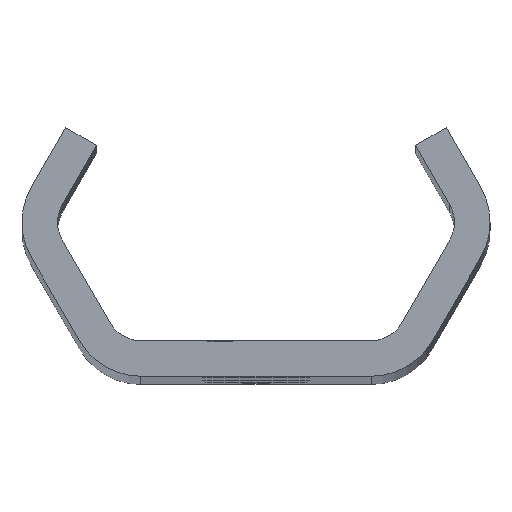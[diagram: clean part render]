
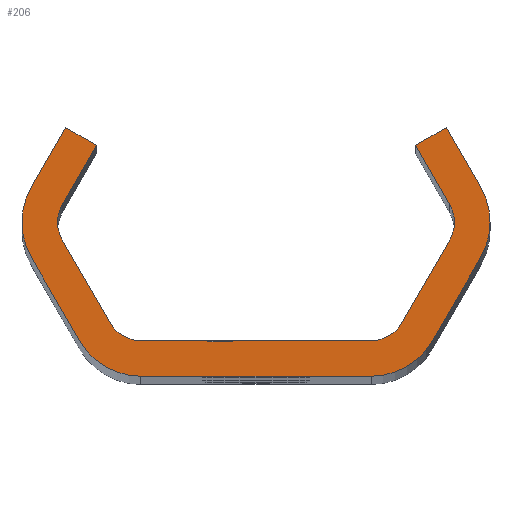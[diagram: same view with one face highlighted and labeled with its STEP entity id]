
A CAD part, top view. The second image highlights one B-rep face of the part: STEP entity #206.
In plain terms, the highlighted planar face has unit normal (0, 0, 1).
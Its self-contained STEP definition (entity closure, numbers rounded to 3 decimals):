
#206=ADVANCED_FACE('NONE',(#524),#525,.F.);
#524=FACE_OUTER_BOUND('',#1455,.T.);
#525=PLANE('',#1456);
#1455=EDGE_LOOP('',(#2989,#2990,#2991,#2992,#2993,#2994,#2995,#2996,#2997,#2998,#2999,#3000,#3001,#3002,#3003,#3004,#3005,#3006,#3007,#3008,#3009,#3010,#3011,#3012,#3013,#3014,#3015,#3016));
#1456=AXIS2_PLACEMENT_3D('',#3017,#3018,#3019);
#2989=ORIENTED_EDGE('',*,*,#4026,.F.);
#2990=ORIENTED_EDGE('',*,*,#4027,.T.);
#2991=ORIENTED_EDGE('',*,*,#3927,.T.);
#2992=ORIENTED_EDGE('',*,*,#4028,.T.);
#2993=ORIENTED_EDGE('',*,*,#3997,.T.);
#2994=ORIENTED_EDGE('',*,*,#4029,.T.);
#2995=ORIENTED_EDGE('',*,*,#3834,.T.);
#2996=ORIENTED_EDGE('',*,*,#4000,.T.);
#2997=ORIENTED_EDGE('',*,*,#4006,.T.);
#2998=ORIENTED_EDGE('',*,*,#4010,.T.);
#2999=ORIENTED_EDGE('',*,*,#4030,.T.);
#3000=ORIENTED_EDGE('',*,*,#3901,.T.);
#3001=ORIENTED_EDGE('',*,*,#4012,.T.);
#3002=ORIENTED_EDGE('',*,*,#4031,.T.);
#3003=ORIENTED_EDGE('',*,*,#4016,.T.);
#3004=ORIENTED_EDGE('',*,*,#4032,.T.);
#3005=ORIENTED_EDGE('',*,*,#3908,.T.);
#3006=ORIENTED_EDGE('',*,*,#4033,.T.);
#3007=ORIENTED_EDGE('',*,*,#3839,.T.);
#3008=ORIENTED_EDGE('',*,*,#3911,.T.);
#3009=ORIENTED_EDGE('',*,*,#3917,.T.);
#3010=ORIENTED_EDGE('',*,*,#3920,.T.);
#3011=ORIENTED_EDGE('',*,*,#3898,.T.);
#3012=ORIENTED_EDGE('',*,*,#4034,.T.);
#3013=ORIENTED_EDGE('',*,*,#3922,.T.);
#3014=ORIENTED_EDGE('',*,*,#4035,.T.);
#3015=ORIENTED_EDGE('',*,*,#3930,.T.);
#3016=ORIENTED_EDGE('',*,*,#4036,.T.);
#3017=CARTESIAN_POINT('',(0.0,0.0,400.0));
#3018=DIRECTION('',(0.0,0.0,-1.0));
#3019=DIRECTION('',(0.0,-1.0,0.0));
#3834=EDGE_CURVE('NONE',#4293,#4297,#4299,.T.);
#3839=EDGE_CURVE('NONE',#4302,#4306,#4308,.T.);
#3898=EDGE_CURVE('NONE',#4414,#4412,#4415,.T.);
#3901=EDGE_CURVE('NONE',#4418,#4419,#4420,.T.);
#3908=EDGE_CURVE('NONE',#4432,#4430,#4433,.T.);
#3911=EDGE_CURVE('NONE',#4306,#4436,#4437,.T.);
#3917=EDGE_CURVE('NONE',#4436,#4444,#4446,.T.);
#3920=EDGE_CURVE('NONE',#4444,#4414,#4449,.T.);
#3922=EDGE_CURVE('NONE',#4451,#4452,#4453,.T.);
#3927=EDGE_CURVE('NONE',#4460,#4461,#4462,.T.);
#3930=EDGE_CURVE('NONE',#4467,#4465,#4468,.T.);
#3997=EDGE_CURVE('NONE',#4592,#4590,#4593,.T.);
#4000=EDGE_CURVE('NONE',#4297,#4596,#4597,.T.);
#4006=EDGE_CURVE('NONE',#4596,#4604,#4606,.T.);
#4010=EDGE_CURVE('NONE',#4604,#4610,#4612,.T.);
#4012=EDGE_CURVE('NONE',#4419,#4614,#4615,.T.);
#4016=EDGE_CURVE('NONE',#4620,#4621,#4622,.T.);
#4026=EDGE_CURVE('NONE',#4634,#4635,#4636,.T.);
#4027=EDGE_CURVE('NONE',#4634,#4460,#4637,.T.);
#4028=EDGE_CURVE('NONE',#4461,#4592,#4638,.T.);
#4029=EDGE_CURVE('NONE',#4590,#4293,#4639,.T.);
#4030=EDGE_CURVE('NONE',#4610,#4418,#4640,.T.);
#4031=EDGE_CURVE('NONE',#4614,#4620,#4641,.T.);
#4032=EDGE_CURVE('NONE',#4621,#4432,#4642,.T.);
#4033=EDGE_CURVE('NONE',#4430,#4302,#4643,.T.);
#4034=EDGE_CURVE('NONE',#4412,#4451,#4644,.T.);
#4035=EDGE_CURVE('NONE',#4452,#4467,#4645,.T.);
#4036=EDGE_CURVE('NONE',#4465,#4635,#4646,.T.);
#4293=VERTEX_POINT('',#4976);
#4297=VERTEX_POINT('NONE',#4981);
#4299=CIRCLE('',#4984,3.0);
#4302=VERTEX_POINT('',#4987);
#4306=VERTEX_POINT('NONE',#4992);
#4308=CIRCLE('',#4995,6.0);
#4412=VERTEX_POINT('NONE',#5633);
#4414=VERTEX_POINT('NONE',#5636);
#4415=CIRCLE('',#5637,3.0);
#4418=VERTEX_POINT('NONE',#5641);
#4419=VERTEX_POINT('NONE',#5642);
#4420=CIRCLE('',#5643,6.0);
#4430=VERTEX_POINT('NONE',#5656);
#4432=VERTEX_POINT('NONE',#5659);
#4433=LINE('',#5660,#5661);
#4436=VERTEX_POINT('NONE',#5665);
#4437=LINE('',#5666,#5667);
#4444=VERTEX_POINT('NONE',#5677);
#4446=LINE('',#5680,#5681);
#4449=LINE('',#5685,#5686);
#4451=VERTEX_POINT('NONE',#5688);
#4452=VERTEX_POINT('NONE',#5689);
#4453=LINE('',#5690,#5691);
#4460=VERTEX_POINT('NONE',#5701);
#4461=VERTEX_POINT('NONE',#5702);
#4462=LINE('',#5703,#5704);
#4465=VERTEX_POINT('NONE',#5708);
#4467=VERTEX_POINT('NONE',#5711);
#4468=LINE('',#5712,#5713);
#4590=VERTEX_POINT('NONE',#6187);
#4592=VERTEX_POINT('NONE',#6190);
#4593=LINE('',#6191,#6192);
#4596=VERTEX_POINT('NONE',#6196);
#4597=LINE('',#6197,#6198);
#4604=VERTEX_POINT('NONE',#6208);
#4606=LINE('',#6211,#6212);
#4610=VERTEX_POINT('NONE',#6217);
#4612=LINE('',#6220,#6221);
#4614=VERTEX_POINT('NONE',#6223);
#4615=LINE('',#6224,#6225);
#4620=VERTEX_POINT('NONE',#6232);
#4621=VERTEX_POINT('NONE',#6233);
#4622=LINE('',#6234,#6235);
#4634=VERTEX_POINT('NONE',#6250);
#4635=VERTEX_POINT('NONE',#6251);
#4636=LINE('',#6252,#6253);
#4637=LINE('',#6254,#6255);
#4638=CIRCLE('',#6256,3.0);
#4639=CIRCLE('',#6257,3.0);
#4640=CIRCLE('',#6258,6.0);
#4641=CIRCLE('',#6259,6.0);
#4642=CIRCLE('',#6260,6.0);
#4643=CIRCLE('',#6261,6.0);
#4644=CIRCLE('',#6262,3.0);
#4645=CIRCLE('',#6263,3.0);
#4646=LINE('',#6264,#6265);
#4976=CARTESIAN_POINT('',(-16.764,0.,400.0));
#4981=CARTESIAN_POINT('',(-16.362,1.5,400.0));
#4984=AXIS2_PLACEMENT_3D('',#7363,#7364,#7365);
#4987=CARTESIAN_POINT('',(19.764,0.,400.0));
#4992=CARTESIAN_POINT('',(18.96,3.,400.0));
#4995=AXIS2_PLACEMENT_3D('',#7371,#7372,#7373);
#5633=CARTESIAN_POINT('',(16.764,0.,400.0));
#5636=CARTESIAN_POINT('',(16.362,1.5,400.0));
#5637=AXIS2_PLACEMENT_3D('',#7430,#7431,#7432);
#5641=CARTESIAN_POINT('',(-19.764,0.,400.0));
#5642=CARTESIAN_POINT('',(-18.96,-3.,400.0));
#5643=AXIS2_PLACEMENT_3D('',#7434,#7435,#7436);
#5656=CARTESIAN_POINT('',(18.96,-3.,400.0));
#5659=CARTESIAN_POINT('',(14.919,-10.,400.0));
#5660=CARTESIAN_POINT('',(20.692,0.,400.0));
#5661=VECTOR('',#7444,1000.0);
#5665=CARTESIAN_POINT('',(16.074,8.,400.0));
#5666=CARTESIAN_POINT('',(16.074,8.,400.0));
#5667=VECTOR('',#7446,1000.0);
#5677=CARTESIAN_POINT('',(13.475,6.5,400.0));
#5680=CARTESIAN_POINT('',(13.475,6.5,400.0));
#5681=VECTOR('',#7451,1000.0);
#5685=CARTESIAN_POINT('',(17.228,0.,400.0));
#5686=VECTOR('',#7453,1000.0);
#5688=CARTESIAN_POINT('',(16.362,-1.5,400.0));
#5689=CARTESIAN_POINT('',(12.321,-8.5,400.0));
#5690=CARTESIAN_POINT('',(11.455,-10.0,400.0));
#5691=VECTOR('',#7454,1000.0);
#5701=CARTESIAN_POINT('',(-4.063,-10.0,400.0));
#5702=CARTESIAN_POINT('',(-9.723,-10.0,400.0));
#5703=CARTESIAN_POINT('',(-11.455,-10.0,400.0));
#5704=VECTOR('',#7458,1000.0);
#5708=CARTESIAN_POINT('',(-3.458,-10.0,400.0));
#5711=CARTESIAN_POINT('',(9.723,-10.0,400.0));
#5712=CARTESIAN_POINT('',(-11.455,-10.0,400.0));
#5713=VECTOR('',#7461,1000.0);
#6187=CARTESIAN_POINT('',(-16.362,-1.5,400.0));
#6190=CARTESIAN_POINT('',(-12.321,-8.5,400.0));
#6191=CARTESIAN_POINT('',(-17.228,0.,400.0));
#6192=VECTOR('',#7530,1000.0);
#6196=CARTESIAN_POINT('',(-13.475,6.5,400.0));
#6197=CARTESIAN_POINT('',(-13.475,6.5,400.0));
#6198=VECTOR('',#7532,1000.0);
#6208=CARTESIAN_POINT('',(-16.074,8.,400.0));
#6211=CARTESIAN_POINT('',(-13.475,6.5,400.0));
#6212=VECTOR('',#7537,1000.0);
#6217=CARTESIAN_POINT('',(-18.96,3.,400.0));
#6220=CARTESIAN_POINT('',(-16.074,8.,400.0));
#6221=VECTOR('',#7540,1000.0);
#6223=CARTESIAN_POINT('',(-14.919,-10.,400.0));
#6224=CARTESIAN_POINT('',(-20.692,0.,400.0));
#6225=VECTOR('',#7541,1000.0);
#6232=CARTESIAN_POINT('',(-9.723,-13.0,400.0));
#6233=CARTESIAN_POINT('',(9.723,-13.0,400.0));
#6234=CARTESIAN_POINT('',(-13.187,-13.0,400.0));
#6235=VECTOR('',#7544,1000.0);
#6250=CARTESIAN_POINT('',(-4.063,-10.1,400.0));
#6251=CARTESIAN_POINT('',(-3.458,-10.1,400.0));
#6252=CARTESIAN_POINT('',(0.0,-10.1,400.0));
#6253=VECTOR('',#7563,1000.0);
#6254=CARTESIAN_POINT('',(-4.063,0.,400.0));
#6255=VECTOR('',#7564,1000.0);
#6256=AXIS2_PLACEMENT_3D('',#7565,#7566,#7567);
#6257=AXIS2_PLACEMENT_3D('',#7568,#7569,#7570);
#6258=AXIS2_PLACEMENT_3D('',#7571,#7572,#7573);
#6259=AXIS2_PLACEMENT_3D('',#7574,#7575,#7576);
#6260=AXIS2_PLACEMENT_3D('',#7577,#7578,#7579);
#6261=AXIS2_PLACEMENT_3D('',#7580,#7581,#7582);
#6262=AXIS2_PLACEMENT_3D('',#7583,#7584,#7585);
#6263=AXIS2_PLACEMENT_3D('',#7586,#7587,#7588);
#6264=CARTESIAN_POINT('',(-3.458,0.,400.0));
#6265=VECTOR('',#7589,1000.0);
#7363=CARTESIAN_POINT('',(-13.764,0.,400.0));
#7364=DIRECTION('',(0.0,0.0,-1.0));
#7365=DIRECTION('',(-1.0,0.0,0.0));
#7371=CARTESIAN_POINT('',(13.764,0.,400.0));
#7372=DIRECTION('',(0.0,0.0,1.0));
#7373=DIRECTION('',(-1.0,0.0,0.0));
#7430=CARTESIAN_POINT('',(13.764,0.,400.0));
#7431=DIRECTION('',(0.0,0.0,-1.0));
#7432=DIRECTION('',(-1.0,0.0,0.0));
#7434=CARTESIAN_POINT('',(-13.764,0.,400.0));
#7435=DIRECTION('',(0.0,0.0,1.0));
#7436=DIRECTION('',(-1.0,0.0,0.0));
#7444=DIRECTION('',(0.5,0.866,-0.0));
#7446=DIRECTION('',(-0.5,0.866,-0.0));
#7451=DIRECTION('',(-0.866,-0.5,-0.0));
#7453=DIRECTION('',(0.5,-0.866,-0.0));
#7454=DIRECTION('',(-0.5,-0.866,-0.0));
#7458=DIRECTION('',(-1.0,0.,-0.0));
#7461=DIRECTION('',(-1.0,0.,-0.0));
#7530=DIRECTION('',(-0.5,0.866,-0.0));
#7532=DIRECTION('',(0.5,0.866,-0.0));
#7537=DIRECTION('',(-0.866,0.5,0.0));
#7540=DIRECTION('',(-0.5,-0.866,0.0));
#7541=DIRECTION('',(0.5,-0.866,0.0));
#7544=DIRECTION('',(1.0,0.0,0.0));
#7563=DIRECTION('',(1.0,0.0,0.0));
#7564=DIRECTION('',(0.,1.0,0.0));
#7565=CARTESIAN_POINT('',(-9.723,-7.0,400.0));
#7566=DIRECTION('',(0.0,0.0,-1.0));
#7567=DIRECTION('',(-1.0,0.0,0.0));
#7568=CARTESIAN_POINT('',(-13.764,0.,400.0));
#7569=DIRECTION('',(0.0,0.0,-1.0));
#7570=DIRECTION('',(-1.0,0.0,0.0));
#7571=CARTESIAN_POINT('',(-13.764,0.,400.0));
#7572=DIRECTION('',(0.0,0.0,1.0));
#7573=DIRECTION('',(-1.0,0.,0.0));
#7574=CARTESIAN_POINT('',(-9.723,-7.0,400.0));
#7575=DIRECTION('',(0.0,0.0,1.0));
#7576=DIRECTION('',(-1.0,0.0,0.0));
#7577=CARTESIAN_POINT('',(9.723,-7.0,400.0));
#7578=DIRECTION('',(0.0,0.0,1.0));
#7579=DIRECTION('',(-1.0,0.,0.0));
#7580=CARTESIAN_POINT('',(13.764,0.,400.0));
#7581=DIRECTION('',(0.0,0.0,1.0));
#7582=DIRECTION('',(-1.0,0.0,0.0));
#7583=CARTESIAN_POINT('',(13.764,0.,400.0));
#7584=DIRECTION('',(0.0,0.0,-1.0));
#7585=DIRECTION('',(-1.0,0.0,0.0));
#7586=CARTESIAN_POINT('',(9.723,-7.0,400.0));
#7587=DIRECTION('',(0.0,0.0,-1.0));
#7588=DIRECTION('',(-1.0,0.0,0.0));
#7589=DIRECTION('',(0.,-1.0,0.0));
